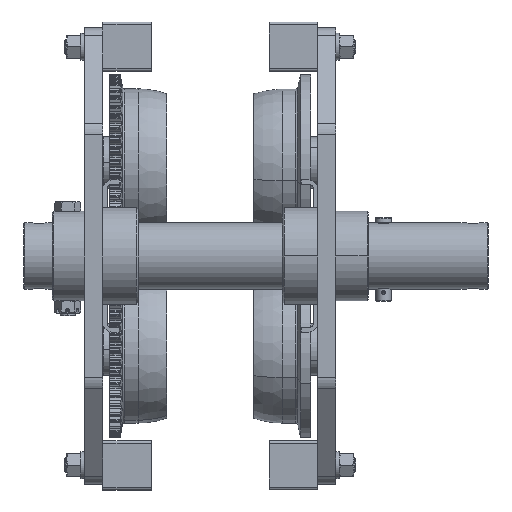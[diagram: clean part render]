
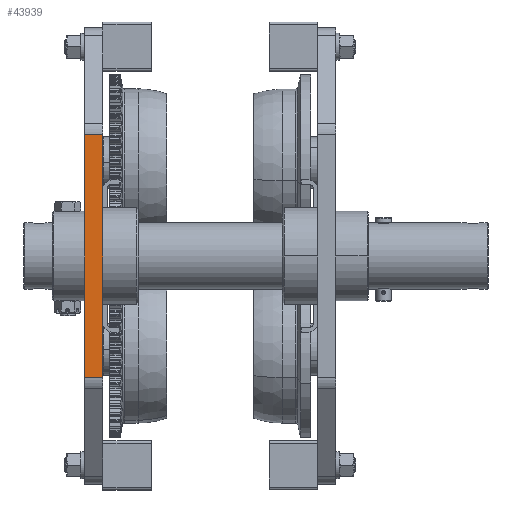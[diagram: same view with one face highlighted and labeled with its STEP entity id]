
A CAD part, front view. The second image highlights one B-rep face of the part: STEP entity #43939.
In plain terms, the highlighted planar face has unit normal (0, -1, 0).
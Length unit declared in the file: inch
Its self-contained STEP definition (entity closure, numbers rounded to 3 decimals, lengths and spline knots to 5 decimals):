
#4584 = ORIENTED_EDGE ( 'NONE', *, *, #27123, .F. ) ;
#4969 = DIRECTION ( 'NONE',  ( 1., 0., 0. ) ) ;
#5000 = CARTESIAN_POINT ( 'NONE',  ( -5.02793, -2.83465, 0. ) ) ;
#9661 = EDGE_CURVE ( 'NONE', #49219, #17633, #19719, .T. ) ;
#11823 = DIRECTION ( 'NONE',  ( 0., 1., 0. ) ) ;
#11880 = LINE ( 'NONE', #37437, #51909 ) ;
#12578 = ORIENTED_EDGE ( 'NONE', *, *, #22627, .T. ) ;
#13848 = LINE ( 'NONE', #18003, #25664 ) ;
#14130 = LINE ( 'NONE', #31061, #48394 ) ;
#14187 = ORIENTED_EDGE ( 'NONE', *, *, #27273, .F. ) ;
#16601 = EDGE_LOOP ( 'NONE', ( #12578, #14187, #4584, #49555 ) ) ;
#17633 = VERTEX_POINT ( 'NONE', #5000 ) ;
#18003 = CARTESIAN_POINT ( 'NONE',  ( 5.02793, -2.83465, 0. ) ) ;
#19719 = LINE ( 'NONE', #41415, #53660 ) ;
#22627 = EDGE_CURVE ( 'NONE', #17633, #53290, #13848, .T. ) ;
#23615 = DIRECTION ( 'NONE',  ( 0., 0., -1. ) ) ;
#24295 = PLANE ( 'NONE',  #24705 ) ;
#24705 = AXIS2_PLACEMENT_3D ( 'NONE', #49903, #11823, #45736 ) ;
#25664 = VECTOR ( 'NONE', #4969, 39.37008 ) ;
#27123 = EDGE_CURVE ( 'NONE', #49219, #34713, #14130, .T. ) ;
#27273 = EDGE_CURVE ( 'NONE', #34713, #53290, #11880, .T. ) ;
#28775 = DIRECTION ( 'NONE',  ( 0., 0., -1. ) ) ;
#31061 = CARTESIAN_POINT ( 'NONE',  ( 5.02793, -2.83465, 0.74803 ) ) ;
#34713 = VERTEX_POINT ( 'NONE', #51307 ) ;
#36055 = CARTESIAN_POINT ( 'NONE',  ( -5.02793, -2.83465, 0.74803 ) ) ;
#37437 = CARTESIAN_POINT ( 'NONE',  ( 5.02793, -2.83465, 0.74803 ) ) ;
#40502 = DIRECTION ( 'NONE',  ( 1., 0., 0. ) ) ;
#41415 = CARTESIAN_POINT ( 'NONE',  ( -5.02793, -2.83465, 0.74803 ) ) ;
#43767 = CARTESIAN_POINT ( 'NONE',  ( 5.02793, -2.83465, 0. ) ) ;
#43939 = ADVANCED_FACE ( 'NONE', ( #54053 ), #24295, .F. ) ;
#45736 = DIRECTION ( 'NONE',  ( 0., 0., 1. ) ) ;
#48394 = VECTOR ( 'NONE', #40502, 39.37008 ) ;
#49219 = VERTEX_POINT ( 'NONE', #36055 ) ;
#49555 = ORIENTED_EDGE ( 'NONE', *, *, #9661, .T. ) ;
#49903 = CARTESIAN_POINT ( 'NONE',  ( 5.02793, -2.83465, 0.74803 ) ) ;
#51307 = CARTESIAN_POINT ( 'NONE',  ( 5.02793, -2.83465, 0.74803 ) ) ;
#51909 = VECTOR ( 'NONE', #28775, 39.37008 ) ;
#53290 = VERTEX_POINT ( 'NONE', #43767 ) ;
#53660 = VECTOR ( 'NONE', #23615, 39.37008 ) ;
#54053 = FACE_OUTER_BOUND ( 'NONE', #16601, .T. ) ;
